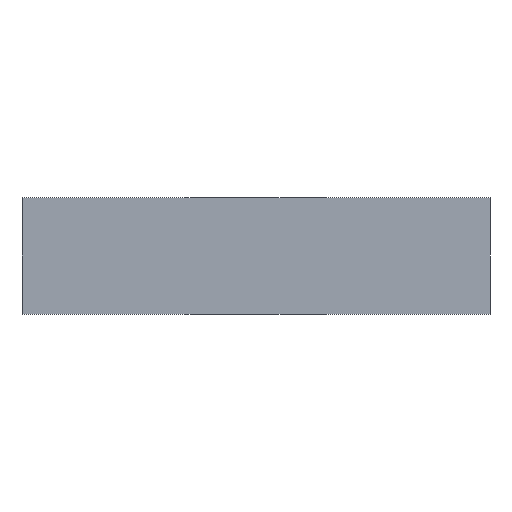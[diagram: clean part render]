
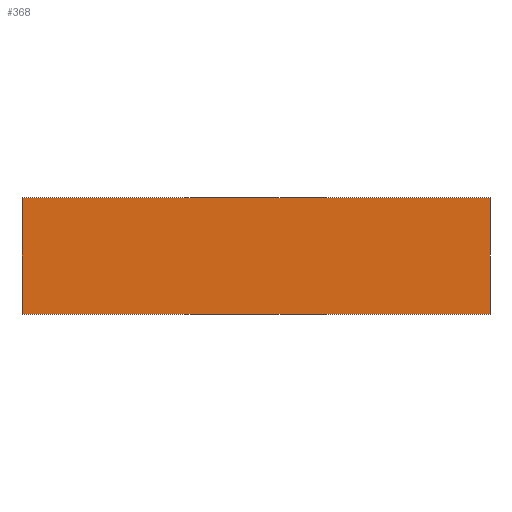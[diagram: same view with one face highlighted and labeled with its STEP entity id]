
A CAD part, front view. The second image highlights one B-rep face of the part: STEP entity #368.
In plain terms, the highlighted planar face has unit normal (0, -1, 0).
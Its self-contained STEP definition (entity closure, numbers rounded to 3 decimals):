
#22 = VERTEX_POINT('',#23);
#23 = CARTESIAN_POINT('',(0.,0.,3.));
#32 = PLANE('',#33);
#33 = AXIS2_PLACEMENT_3D('',#34,#35,#36);
#34 = CARTESIAN_POINT('',(0.,-2.5,0.));
#35 = DIRECTION('',(1.,0.,-0.));
#36 = DIRECTION('',(0.,0.,1.));
#44 = PLANE('',#45);
#45 = AXIS2_PLACEMENT_3D('',#46,#47,#48);
#46 = CARTESIAN_POINT('',(0.,-2.5,3.));
#47 = DIRECTION('',(0.,0.,1.));
#48 = DIRECTION('',(1.,0.,-0.));
#56 = EDGE_CURVE('',#57,#22,#59,.T.);
#57 = VERTEX_POINT('',#58);
#58 = CARTESIAN_POINT('',(0.,0.,0.));
#59 = SURFACE_CURVE('',#60,(#64,#71),.PCURVE_S1.);
#60 = LINE('',#61,#62);
#61 = CARTESIAN_POINT('',(0.,0.,-82.2));
#62 = VECTOR('',#63,1.);
#63 = DIRECTION('',(0.,0.,1.));
#64 = PCURVE('',#32,#65);
#65 = DEFINITIONAL_REPRESENTATION('',(#66),#70);
#66 = LINE('',#67,#68);
#67 = CARTESIAN_POINT('',(-82.2,-2.5));
#68 = VECTOR('',#69,1.);
#69 = DIRECTION('',(1.,0.));
#70 = ( GEOMETRIC_REPRESENTATION_CONTEXT(2) 
PARAMETRIC_REPRESENTATION_CONTEXT() REPRESENTATION_CONTEXT('2D SPACE',''
  ) );
#71 = PCURVE('',#72,#77);
#72 = PLANE('',#73);
#73 = AXIS2_PLACEMENT_3D('',#74,#75,#76);
#74 = CARTESIAN_POINT('',(-192.8,0.,-164.4));
#75 = DIRECTION('',(-0.,1.,0.));
#76 = DIRECTION('',(0.,0.,1.));
#77 = DEFINITIONAL_REPRESENTATION('',(#78),#82);
#78 = LINE('',#79,#80);
#79 = CARTESIAN_POINT('',(82.2,192.8));
#80 = VECTOR('',#81,1.);
#81 = DIRECTION('',(1.,0.));
#82 = ( GEOMETRIC_REPRESENTATION_CONTEXT(2) 
PARAMETRIC_REPRESENTATION_CONTEXT() REPRESENTATION_CONTEXT('2D SPACE',''
  ) );
#100 = PLANE('',#101);
#101 = AXIS2_PLACEMENT_3D('',#102,#103,#104);
#102 = CARTESIAN_POINT('',(0.,-2.5,0.));
#103 = DIRECTION('',(0.,0.,1.));
#104 = DIRECTION('',(1.,0.,-0.));
#142 = EDGE_CURVE('',#143,#22,#145,.T.);
#143 = VERTEX_POINT('',#144);
#144 = CARTESIAN_POINT('',(12.,0.,3.));
#145 = SURFACE_CURVE('',#146,(#150,#157),.PCURVE_S1.);
#146 = LINE('',#147,#148);
#147 = CARTESIAN_POINT('',(-96.4,0.,3.));
#148 = VECTOR('',#149,1.);
#149 = DIRECTION('',(-1.,-0.,0.));
#150 = PCURVE('',#44,#151);
#151 = DEFINITIONAL_REPRESENTATION('',(#152),#156);
#152 = LINE('',#153,#154);
#153 = CARTESIAN_POINT('',(-96.4,2.5));
#154 = VECTOR('',#155,1.);
#155 = DIRECTION('',(-1.,0.));
#156 = ( GEOMETRIC_REPRESENTATION_CONTEXT(2) 
PARAMETRIC_REPRESENTATION_CONTEXT() REPRESENTATION_CONTEXT('2D SPACE',''
  ) );
#157 = PCURVE('',#72,#158);
#158 = DEFINITIONAL_REPRESENTATION('',(#159),#163);
#159 = LINE('',#160,#161);
#160 = CARTESIAN_POINT('',(167.4,96.4));
#161 = VECTOR('',#162,1.);
#162 = DIRECTION('',(0.,-1.));
#163 = ( GEOMETRIC_REPRESENTATION_CONTEXT(2) 
PARAMETRIC_REPRESENTATION_CONTEXT() REPRESENTATION_CONTEXT('2D SPACE',''
  ) );
#181 = PLANE('',#182);
#182 = AXIS2_PLACEMENT_3D('',#183,#184,#185);
#183 = CARTESIAN_POINT('',(12.,-2.5,0.));
#184 = DIRECTION('',(1.,0.,-0.));
#185 = DIRECTION('',(0.,0.,1.));
#298 = EDGE_CURVE('',#299,#57,#301,.T.);
#299 = VERTEX_POINT('',#300);
#300 = CARTESIAN_POINT('',(12.,0.,0.));
#301 = SURFACE_CURVE('',#302,(#306,#313),.PCURVE_S1.);
#302 = LINE('',#303,#304);
#303 = CARTESIAN_POINT('',(-96.4,0.,0.));
#304 = VECTOR('',#305,1.);
#305 = DIRECTION('',(-1.,-0.,0.));
#306 = PCURVE('',#100,#307);
#307 = DEFINITIONAL_REPRESENTATION('',(#308),#312);
#308 = LINE('',#309,#310);
#309 = CARTESIAN_POINT('',(-96.4,2.5));
#310 = VECTOR('',#311,1.);
#311 = DIRECTION('',(-1.,0.));
#312 = ( GEOMETRIC_REPRESENTATION_CONTEXT(2) 
PARAMETRIC_REPRESENTATION_CONTEXT() REPRESENTATION_CONTEXT('2D SPACE',''
  ) );
#313 = PCURVE('',#72,#314);
#314 = DEFINITIONAL_REPRESENTATION('',(#315),#319);
#315 = LINE('',#316,#317);
#316 = CARTESIAN_POINT('',(164.4,96.4));
#317 = VECTOR('',#318,1.);
#318 = DIRECTION('',(0.,-1.));
#319 = ( GEOMETRIC_REPRESENTATION_CONTEXT(2) 
PARAMETRIC_REPRESENTATION_CONTEXT() REPRESENTATION_CONTEXT('2D SPACE',''
  ) );
#368 = ADVANCED_FACE('',(#369),#72,.F.);
#369 = FACE_BOUND('',#370,.F.);
#370 = EDGE_LOOP('',(#371,#372,#373,#374));
#371 = ORIENTED_EDGE('',*,*,#298,.T.);
#372 = ORIENTED_EDGE('',*,*,#56,.T.);
#373 = ORIENTED_EDGE('',*,*,#142,.F.);
#374 = ORIENTED_EDGE('',*,*,#375,.F.);
#375 = EDGE_CURVE('',#299,#143,#376,.T.);
#376 = SURFACE_CURVE('',#377,(#381,#388),.PCURVE_S1.);
#377 = LINE('',#378,#379);
#378 = CARTESIAN_POINT('',(12.,0.,-82.2));
#379 = VECTOR('',#380,1.);
#380 = DIRECTION('',(0.,0.,1.));
#381 = PCURVE('',#72,#382);
#382 = DEFINITIONAL_REPRESENTATION('',(#383),#387);
#383 = LINE('',#384,#385);
#384 = CARTESIAN_POINT('',(82.2,204.8));
#385 = VECTOR('',#386,1.);
#386 = DIRECTION('',(1.,0.));
#387 = ( GEOMETRIC_REPRESENTATION_CONTEXT(2) 
PARAMETRIC_REPRESENTATION_CONTEXT() REPRESENTATION_CONTEXT('2D SPACE',''
  ) );
#388 = PCURVE('',#181,#389);
#389 = DEFINITIONAL_REPRESENTATION('',(#390),#394);
#390 = LINE('',#391,#392);
#391 = CARTESIAN_POINT('',(-82.2,-2.5));
#392 = VECTOR('',#393,1.);
#393 = DIRECTION('',(1.,0.));
#394 = ( GEOMETRIC_REPRESENTATION_CONTEXT(2) 
PARAMETRIC_REPRESENTATION_CONTEXT() REPRESENTATION_CONTEXT('2D SPACE',''
  ) );
